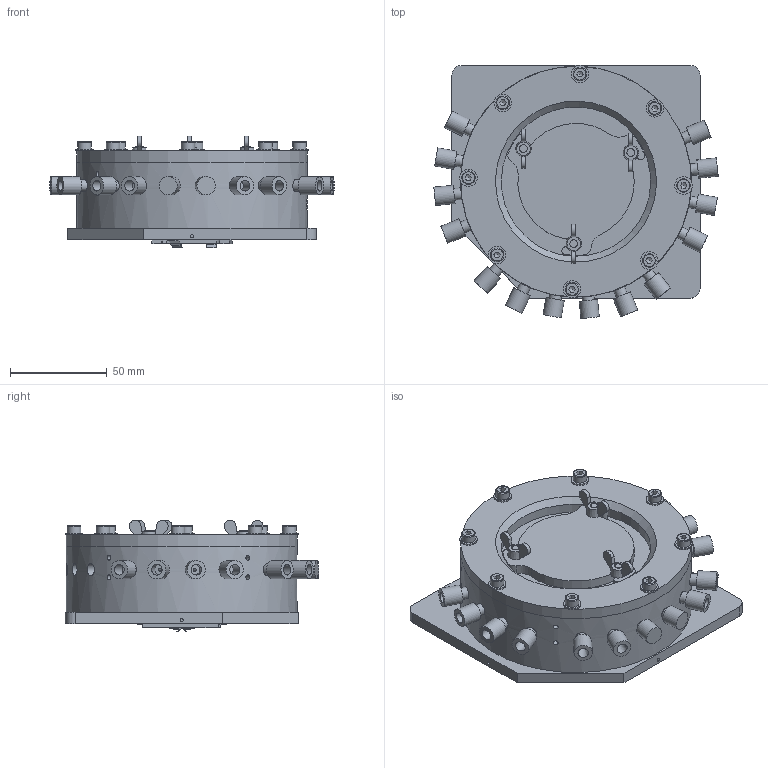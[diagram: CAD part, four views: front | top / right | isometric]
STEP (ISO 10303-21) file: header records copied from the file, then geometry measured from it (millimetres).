
FILE_DESCRIPTION(/* description */ (''),/* implementation_level */ '2;1');
FILE_NAME(/* name */ 'P:\Benutzer\baerchri\Inventor\Diverse\Gruppe Dittrich\Felix Kurth\Incubator chamber\Step Dateien\Assembly incubation chamber.stp',/* time_stamp */ '2014-06-03T11:53:16+02:00',/* author */ ('baerchri'),/* organization */ (''),/* preprocessor_version */ 'ST-DEVELOPER v15.2',/* originating_system */ 'Autodesk Inventor 2014',/* authorisation */ '');
FILE_SCHEMA (('AUTOMOTIVE_DESIGN { 1 0 10303 214 3 1 1 }'));
Length unit declared in the file: millimetre
Products named in the file (21): Microscope adapter plate; Incubation chamber body; Incubation chamber lid; Threaded bolt M4x16mm; DIN 315 - M4; PMMA lid; Silicon flat gasket; Glass slide 0.5mm x24mm x40mm; PDMS chip 6mm x24mm x24mm; Chip clamp; Metal connection 90°; Resistance heater 25W; Connecting plug body; Connecting plug screw nut; Bottom lid; Coach spring bottom; Blind cap; Tefzel cap 0.25inchx28; DIN 912 - M4 x 0.7 x 12 x 10.25; DIN 125 - A 4.3; Assembly incubation chamber
Bounding box: 146.6 x 130.61 x 57.5 mm (x, y, z)
Volume: 350215.2 mm3; surface area: 144594.7 mm2
Topology: 53 solids, 53 shells, 745 faces, 1615 edges, 1083 vertices
Faces by surface type: plane 401, cylinder 288, cone 38, torus 18
Full cylindrical faces by diameter (mm): 1.35 x1, 1.4 x1, 1.567 x6, 1.588 x32, 1.7 x1, 2 x2, 2.1 x2, 2.4 x4, 2.459 x12, 2.8 x12, 3.1 x4, 3.2 x4, 3.242 x14, 4 x16, 4.2 x8, 4.3 x8, 4.5 x13, 5 x2, 5.5 x12, 6 x12, 6.15 x2, 6.2 x20, 7 x8, 7.9 x1, 8.9 x1, 9 x10, 9.5 x14, 10 x1, 11 x1, 34 x1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
Entity records: 12669 total; most frequent: CARTESIAN_POINT 3464, DIRECTION 1897, ORIENTED_EDGE 1432, AXIS2_PLACEMENT_3D 782, EDGE_CURVE 716, EDGE_LOOP 715, VERTEX_POINT 567, ADVANCED_FACE 392
